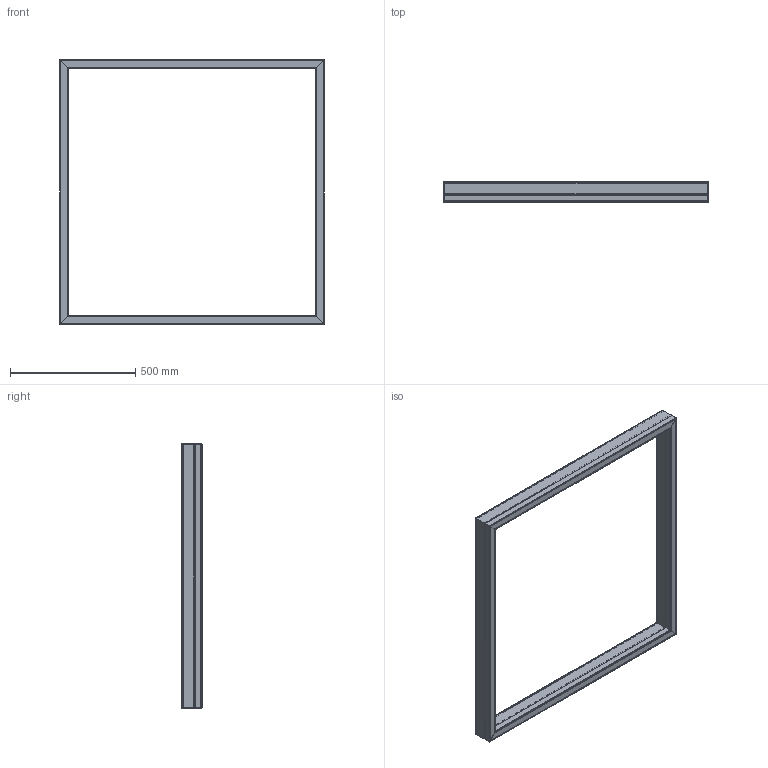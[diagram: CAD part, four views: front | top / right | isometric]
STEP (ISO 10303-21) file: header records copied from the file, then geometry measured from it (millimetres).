
FILE_DESCRIPTION(('STEP AP203'), '1');
FILE_NAME('Ìàòèê Êâàäð 80Âò', '', ('UNSPECIFIED'), ('UNSPECIFIED'), 'ASCON STEP Converter 1.6', 'ASCON Math Kernel', '');
FILE_SCHEMA(('CONFIG_CONTROL_DESIGN'));
Length unit declared in the file: millimetre
Assembly tree (4 placements, depth 2):
  (unnamed)
    (unnamed)
    (unnamed)  x2
    (unnamed)
Bounding box: 1056 x 80 x 1056 mm (x, y, z)
Volume: 1638966.8 mm3; surface area: 2562663.5 mm2
Topology: 9 solids, 9 shells, 731 faces, 2131 edges, 1420 vertices
Faces by surface type: cylinder 397, plane 332, torus 2
Full cylindrical faces by diameter (mm): 8 x1, 10 x2, 14 x2
Entity records: 18307 total; most frequent: CARTESIAN_POINT 5020, ORIENTED_EDGE 3192, DIRECTION 2132, EDGE_CURVE 1596, VERTEX_POINT 1068, LINE 996, VECTOR 996, EDGE_LOOP 570
